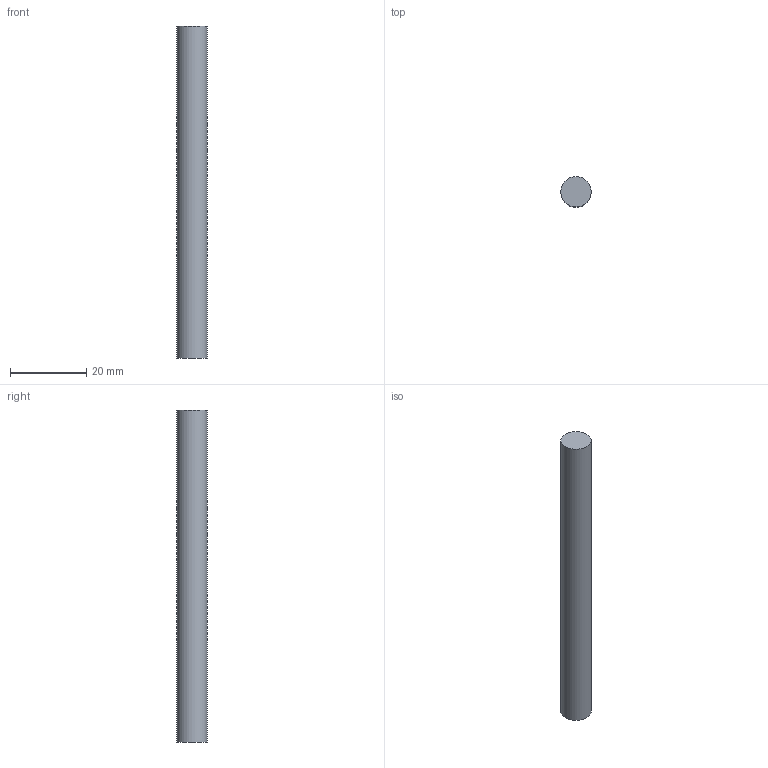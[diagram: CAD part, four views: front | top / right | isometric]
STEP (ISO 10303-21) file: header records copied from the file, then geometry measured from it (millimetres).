
FILE_DESCRIPTION(('FreeCAD Model'),'2;1');
FILE_NAME('Open CASCADE Shape Model','2026-10-30T14:44:59',('FreeCAD'),( 'FreeCAD'),'Open CASCADE STEP processor 7.8','FreeCAD','Unknown');
FILE_SCHEMA(('AUTOMOTIVE_DESIGN { 1 0 10303 214 1 1 1 1 }'));
Length unit declared in the file: millimetre
Products named in the file (1): Open CASCADE STEP translator 7.8 7
Bounding box: 8 x 8 x 87.25 mm (x, y, z)
Volume: 4385.7 mm3; surface area: 2293.4 mm2
Topology: 1 solids, 1 shells, 3 faces, 3 edges, 2 vertices
Faces by surface type: plane 2, cylinder 1
Full cylindrical faces by diameter (mm): 8 x1
Entity records: 69 total; most frequent: DIRECTION 13, CARTESIAN_POINT 9, AXIS2_PLACEMENT_3D 6, ORIENTED_EDGE 6, ADVANCED_FACE 3, FACE_BOUND 3, EDGE_LOOP 3, EDGE_CURVE 3
